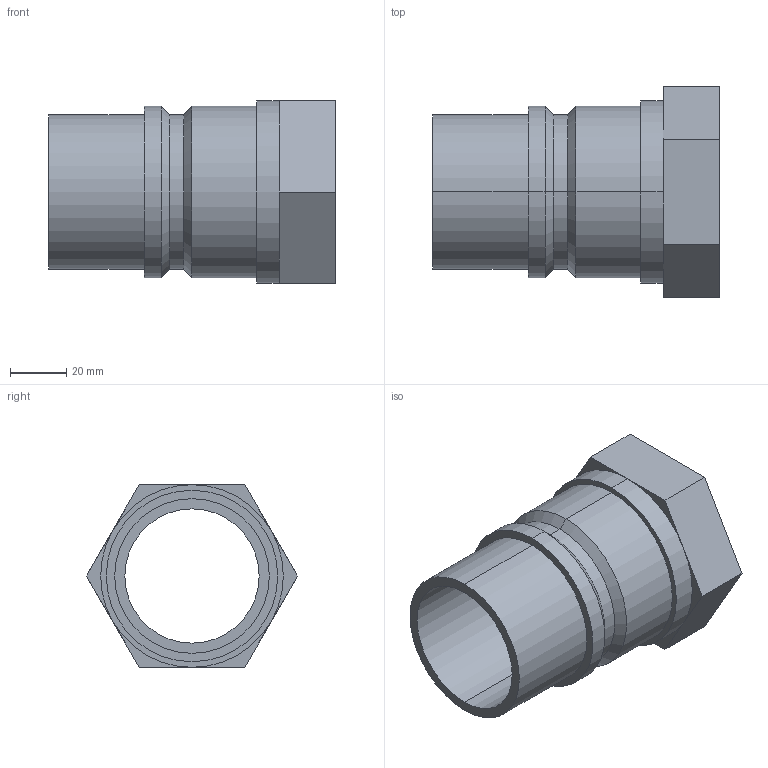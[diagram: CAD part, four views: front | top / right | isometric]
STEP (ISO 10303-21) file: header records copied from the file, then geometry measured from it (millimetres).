
FILE_DESCRIPTION (( 'STEP AP214' ), '1' );
FILE_NAME ('BR601.38 DR 48.STEP', '2020-12-02T13:27:20', ( '' ), ( '' ), 'SwSTEP 2.0', 'SolidWorks 2018', '' );
FILE_SCHEMA (( 'AUTOMOTIVE_DESIGN' ));
Length unit declared in the file: millimetre
Products named in the file (1): BR601.38 DR 48
Bounding box: 102 x 75.06 x 65 mm (x, y, z)
Volume: 109961.2 mm3; surface area: 39025.3 mm2
Topology: 1 solids, 1 shells, 32 faces, 68 edges, 40 vertices
Faces by surface type: plane 16, cylinder 12, cone 4
Entity records: 890 total; most frequent: DIRECTION 162, CARTESIAN_POINT 141, ORIENTED_EDGE 136, EDGE_CURVE 68, AXIS2_PLACEMENT_3D 61, VECTOR 40, LINE 40, VERTEX_POINT 40
